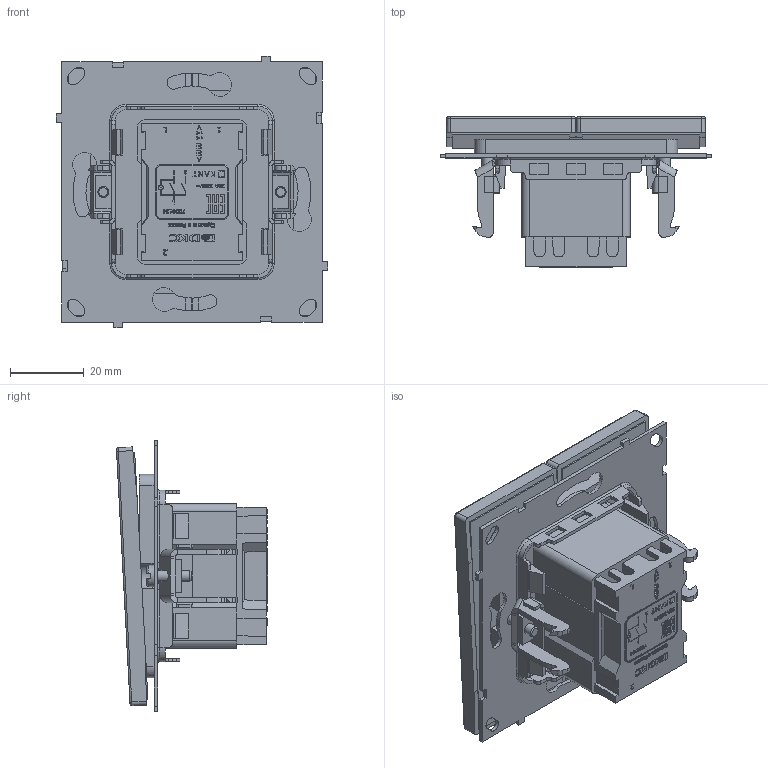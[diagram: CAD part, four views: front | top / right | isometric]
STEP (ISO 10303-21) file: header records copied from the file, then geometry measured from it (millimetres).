
FILE_DESCRIPTION (( 'STEP AP203' ), '1' );
FILE_NAME ('7000134.STEP', '2025-10-27T07:01:55', ( '' ), ( '' ), 'SwSTEP 2.0', 'SolidWorks 2022', '' );
FILE_SCHEMA (( 'CONFIG_CONTROL_DESIGN' ));
Length unit declared in the file: millimetre
Products named in the file (1): 7000134
Bounding box: 73.5 x 40.88 x 73.5 mm (x, y, z)
Volume: 69103.8 mm3; surface area: 28630.2 mm2
Topology: 3 solids, 3 shells, 1627 faces, 4493 edges, 2938 vertices
Faces by surface type: plane 1017, bspline 336, cylinder 240, torus 22, cone 12
Full cylindrical faces by diameter (mm): 3 x4, 3.3 x2
Entity records: 63236 total; most frequent: CARTESIAN_POINT 23729, ORIENTED_EDGE 8946, DIRECTION 6819, EDGE_CURVE 4473, LINE 3231, VECTOR 3231, VERTEX_POINT 2930, AXIS2_PLACEMENT_3D 1794
